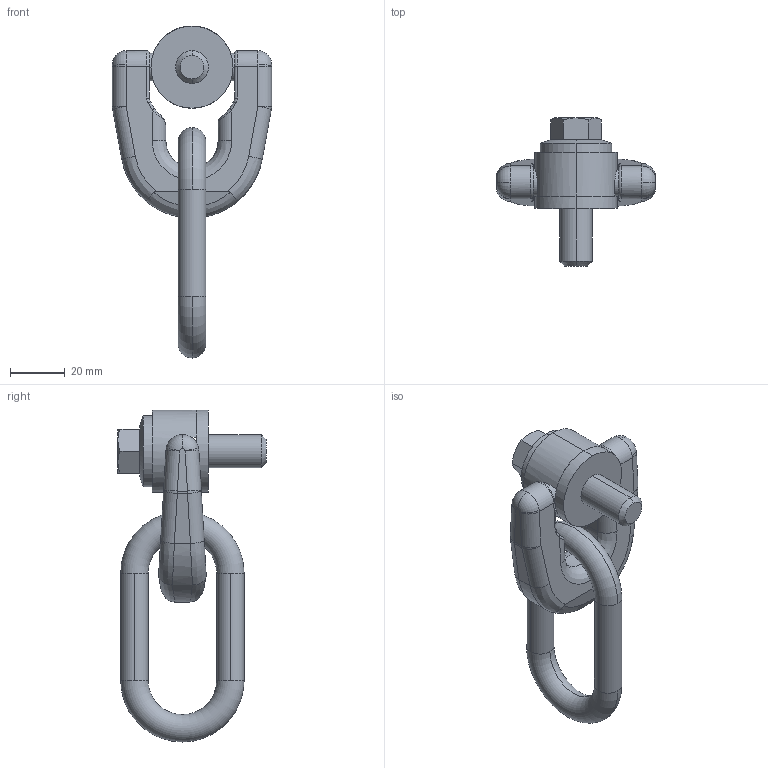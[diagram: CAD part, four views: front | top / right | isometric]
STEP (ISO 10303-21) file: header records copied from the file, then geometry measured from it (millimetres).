
FILE_DESCRIPTION (( 'STEP AP203' ), '1' );
FILE_NAME ('63150.W0012.step', '2013-12-13T11:50:57', ( 'User' ), ( '' ), 'SwSTEP 2.0', 'SolidWorks 2009', '' );
FILE_SCHEMA (( 'CONFIG_CONTROL_DESIGN' ));
Length unit declared in the file: millimetre
Products named in the file (4): 63150.W0012; Part1_63150.W0012; Part2A; Part3_63150.W0012
Assembly tree (3 placements, depth 2):
  63150.W0012
    Part1_63150.W0012
    Part3_63150.W0012
    Part2A
Bounding box: 58 x 54 x 121 mm (x, y, z)
Volume: 61280.4 mm3; surface area: 19209.1 mm2
Topology: 3 solids, 3 shells, 133 faces, 319 edges, 190 vertices
Faces by surface type: cylinder 41, plane 33, bspline 33, torus 12, cone 10, sphere 4
Entity records: 5611 total; most frequent: CARTESIAN_POINT 2343, ORIENTED_EDGE 634, DIRECTION 582, EDGE_CURVE 317, AXIS2_PLACEMENT_3D 237, VERTEX_POINT 190, EDGE_LOOP 137, ADVANCED_FACE 133
